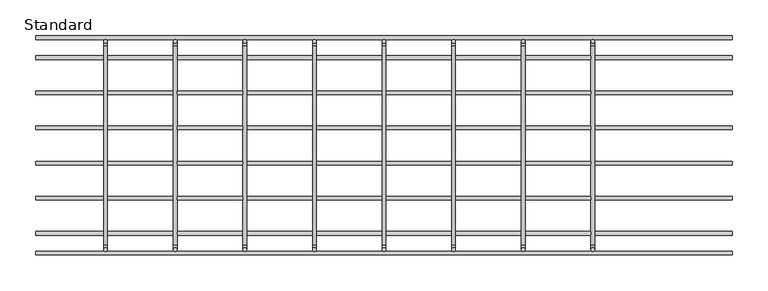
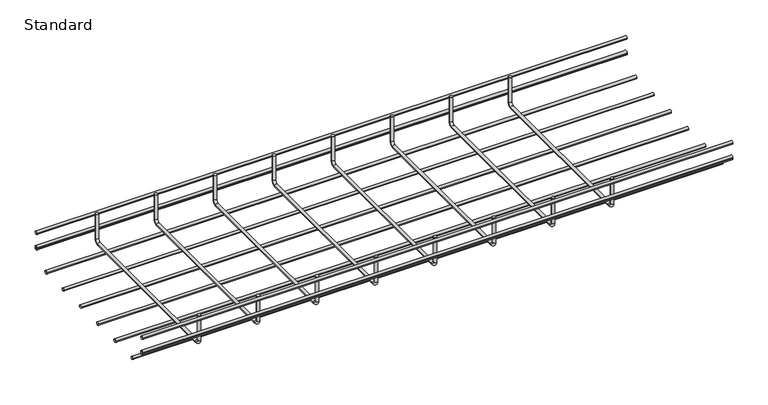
"""IFC4 building model written with IfcOpenShell, lengths in millimetres: cable carrier fitting geometry, CableTray_Atkore-Straight-Length : Standard."""

from ifc_helpers import new_model, si_unit, point, frame, frame_2d, origin, place, context, project, spatial, circle_curve, ellipse_curve, trimmed, segment, composite_curve, outline, extrude, source, transform, mapped, element, save
from ifc_brep_helpers import plane_surface, cylinder_surface, revolved_surface, advanced_brep


def standard_96c1f622(model_context):
    return source(origin(), model_context, "Body", "SolidModel", [
        extrude(outline(composite_curve([segment(trimmed(circle_curve(frame_2d((73.4025, -25.9357812)), 2.54), [point((70.8625, -25.9357812))], [point((75.9425, -25.9357812))], False, "CARTESIAN"), True, "CONTINUOUS"), segment(trimmed(circle_curve(frame_2d((73.4025, -25.9357812)), 2.54), [point((75.9425, -25.9357812))], [point((70.8625, -25.9357812))], False, "CARTESIAN"), True, "CONTINUOUS")], self_intersect=False)), frame((0.0, 0.0, 0.0), z_axis=(1.0, 0.0, 0.0), x_axis=(0.0, 1.0, 0.0)), (0.0, 0.0, 1.0), 967.2544998),
        extrude(outline(composite_curve([segment(trimmed(circle_curve(frame_2d((24.4675, -25.9357812)), 2.54), [point((21.9275, -25.9357812))], [point((27.0075, -25.9357812))], False, "CARTESIAN"), True, "CONTINUOUS"), segment(trimmed(circle_curve(frame_2d((24.4675, -25.9357812)), 2.54), [point((27.0075, -25.9357812))], [point((21.9275, -25.9357812))], False, "CARTESIAN"), True, "CONTINUOUS")], self_intersect=False)), frame((0.0, 0.0, 0.0), z_axis=(1.0, 0.0, 0.0), x_axis=(0.0, 1.0, 0.0)), (0.0, 0.0, 1.0), 967.2544998),
        extrude(outline(composite_curve([segment(trimmed(circle_curve(frame_2d((-24.4675, -25.9357812)), 2.54), [point((-27.0075, -25.9357812))], [point((-21.9275, -25.9357812))], False, "CARTESIAN"), True, "CONTINUOUS"), segment(trimmed(circle_curve(frame_2d((-24.4675, -25.9357812)), 2.54), [point((-21.9275, -25.9357812))], [point((-27.0075, -25.9357812))], False, "CARTESIAN"), True, "CONTINUOUS")], self_intersect=False)), frame((0.0, 0.0, 0.0), z_axis=(1.0, 0.0, 0.0), x_axis=(0.0, 1.0, 0.0)), (0.0, 0.0, 1.0), 967.2544998),
        extrude(outline(composite_curve([segment(trimmed(circle_curve(frame_2d((-73.4025, -25.9357812)), 2.54), [point((-75.9425, -25.9357812))], [point((-70.8625, -25.9357812))], False, "CARTESIAN"), True, "CONTINUOUS"), segment(trimmed(circle_curve(frame_2d((-73.4025, -25.9357812)), 2.54), [point((-70.8625, -25.9357812))], [point((-75.9425, -25.9357812))], False, "CARTESIAN"), True, "CONTINUOUS")], self_intersect=False)), frame((0.0, 0.0, 0.0), z_axis=(1.0, 0.0, 0.0), x_axis=(0.0, 1.0, 0.0)), (0.0, 0.0, 1.0), 967.2544998),
        advanced_brep(
        [(94.18545, -144.88, 28.4757813), (99.26545, -144.88, 28.4757813), (94.18545, -144.88, -14.8133594), (99.26545, -144.88, -14.8133594), (99.26545, -138.8375781, -20.8557812), (94.18545, -138.8375781, -20.8557812), (94.18545, 138.53, -20.8557812), (99.26545, 138.53, -20.8557812), (99.26545, 144.88, -14.5057812), (94.18545, 144.88, -14.5057812), (94.18545, 144.88, 28.4757813), (99.26545, 144.88, 28.4757813)],
        [
            (0, 1, circle_curve(frame((96.72545, -144.88, 28.4757813), z_axis=(0.0, 0.0, 1.0), x_axis=(1.0, 0.0, 0.0)), 2.54)),
            (1, 0, circle_curve(frame((96.72545, -144.88, 28.4757813), z_axis=(0.0, 0.0, 1.0), x_axis=(1.0, 0.0, 0.0)), 2.54)),
            (0, 2),
            (2, 3, circle_curve(frame((96.72545, -144.88, -14.8133594), z_axis=(0.0, 0.0, 1.0), x_axis=(1.0, 0.0, 0.0)), 2.54)),
            (3, 1),
            (3, 2, circle_curve(frame((96.72545, -144.88, -14.8133594), z_axis=(0.0, 0.0, 1.0), x_axis=(1.0, 0.0, 0.0)), 2.54)),
            (4, 3, circle_curve(frame((99.26545, -138.8375781, -14.8133594), z_axis=(-1.0, 0.0, 0.0), x_axis=(0.0, -1.0, 0.0)), 6.0424219)),
            (2, 5, circle_curve(frame((94.18545, -138.8375781, -14.8133594), z_axis=(1.0, 0.0, 0.0), x_axis=(0.0, -1.0, 0.0)), 6.0424219)),
            (5, 4, circle_curve(frame((96.72545, -138.8375781, -20.8557812), z_axis=(0.0, -1.0, 0.0), x_axis=(1.0, 0.0, 0.0)), 2.54)),
            (4, 5, circle_curve(frame((96.72545, -138.8375781, -20.8557812), z_axis=(0.0, -1.0, 0.0), x_axis=(1.0, 0.0, 0.0)), 2.54)),
            (5, 6),
            (6, 7, circle_curve(frame((96.72545, 138.53, -20.8557812), z_axis=(0.0, -1.0, 0.0), x_axis=(1.0, 0.0, 0.0)), 2.54)),
            (7, 4),
            (7, 6, circle_curve(frame((96.72545, 138.53, -20.8557812), z_axis=(0.0, -1.0, 0.0), x_axis=(1.0, 0.0, 0.0)), 2.54)),
            (8, 7, circle_curve(frame((99.26545, 138.53, -14.5057812), z_axis=(-1.0, 0.0, 0.0), x_axis=(0.0, 0.0, -1.0)), 6.35)),
            (6, 9, circle_curve(frame((94.18545, 138.53, -14.5057812), z_axis=(1.0, 0.0, 0.0), x_axis=(0.0, 0.0, -1.0)), 6.35)),
            (9, 8, circle_curve(frame((96.72545, 144.88, -14.5057812), z_axis=(0.0, 0.0, -1.0), x_axis=(1.0, 0.0, 0.0)), 2.54)),
            (8, 9, circle_curve(frame((96.72545, 144.88, -14.5057812), z_axis=(0.0, 0.0, -1.0), x_axis=(1.0, 0.0, 0.0)), 2.54)),
            (10, 11, circle_curve(frame((96.72545, 144.88, 28.4757813), z_axis=(0.0, 0.0, 1.0), x_axis=(1.0, 0.0, 0.0)), 2.54)),
            (11, 10, circle_curve(frame((96.72545, 144.88, 28.4757813), z_axis=(0.0, 0.0, 1.0), x_axis=(1.0, 0.0, 0.0)), 2.54)),
            (9, 10),
            (11, 8),
        ],
        [
            plane_surface(frame((96.72545, -144.88, 28.4757813), z_axis=(0.0, 0.0, 1.0), x_axis=(1.0, 0.0, 0.0))),
            cylinder_surface(frame((96.72545, -144.88, 28.4757813), z_axis=(0.0, 0.0, 1.0), x_axis=(1.0, 0.0, 0.0)), 2.54),
            revolved_surface(trimmed(ellipse_curve(frame((96.72545, -144.88, -14.8133594), z_axis=(0.0, 0.0, 1.0), x_axis=(1.0, 0.0, 0.0)), 2.54, 2.54), [point((94.18545, -144.88, -14.8133594))], [point((99.26545, -144.88, -14.8133594))], True, "CARTESIAN"), (96.72545, -138.8375781, -14.8133594), (1.0, 0.0, 0.0)),
            revolved_surface(trimmed(ellipse_curve(frame((96.72545, -144.88, -14.8133594), z_axis=(0.0, 0.0, 1.0), x_axis=(1.0, 0.0, 0.0)), 2.54, 2.54), [point((99.26545, -144.88, -14.8133594))], [point((94.18545, -144.88, -14.8133594))], True, "CARTESIAN"), (96.72545, -138.8375781, -14.8133594), (1.0, 0.0, 0.0)),
            cylinder_surface(frame((96.72545, -138.8375781, -20.8557812), z_axis=(0.0, -1.0, 0.0), x_axis=(1.0, 0.0, 0.0)), 2.54),
            revolved_surface(trimmed(ellipse_curve(frame((96.72545, 138.53, -20.8557812), z_axis=(0.0, -1.0, 0.0), x_axis=(1.0, 0.0, 0.0)), 2.54, 2.54), [point((94.18545, 138.53, -20.8557812))], [point((99.26545, 138.53, -20.8557812))], True, "CARTESIAN"), (96.72545, 138.53, -14.5057812), (1.0, 0.0, 0.0)),
            revolved_surface(trimmed(ellipse_curve(frame((96.72545, 138.53, -20.8557812), z_axis=(0.0, -1.0, 0.0), x_axis=(1.0, 0.0, 0.0)), 2.54, 2.54), [point((99.26545, 138.53, -20.8557812))], [point((94.18545, 138.53, -20.8557812))], True, "CARTESIAN"), (96.72545, 138.53, -14.5057812), (1.0, 0.0, 0.0)),
            plane_surface(frame((96.72545, 144.88, 28.4757813), z_axis=(0.0, 0.0, 1.0), x_axis=(1.0, 0.0, 0.0))),
            cylinder_surface(frame((96.72545, 144.88, -14.5057812), z_axis=(0.0, 0.0, -1.0), x_axis=(1.0, 0.0, 0.0)), 2.54),
        ],
        [
            (0, [[1, 2]]),
            (1, [[-1, 3, 4, 5]]),
            (1, [[-2, -5, 6, -3]]),
            (2, [[7, -4, 8, 9]]),
            (3, [[-8, -6, -7, 10]]),
            (4, [[-9, 11, 12, 13]]),
            (4, [[-10, -13, 14, -11]]),
            (5, [[15, -12, 16, 17]]),
            (6, [[-16, -14, -15, 18]]),
            (7, [[19, 20]]),
            (8, [[-17, 21, -20, 22]]),
            (8, [[-18, -22, -19, -21]]),
        ],
    ),
        advanced_brep(
        [(190.9109, -144.88, 28.4757813), (195.9909, -144.88, 28.4757813), (190.9109, -144.88, -14.8133594), (195.9909, -144.88, -14.8133594), (195.9909, -138.8375781, -20.8557812), (190.9109, -138.8375781, -20.8557812), (190.9109, 138.53, -20.8557812), (195.9909, 138.53, -20.8557812), (195.9909, 144.88, -14.5057812), (190.9109, 144.88, -14.5057812), (190.9109, 144.88, 28.4757813), (195.9909, 144.88, 28.4757813)],
        [
            (0, 1, circle_curve(frame((193.4509, -144.88, 28.4757813), z_axis=(0.0, 0.0, 1.0), x_axis=(1.0, 0.0, 0.0)), 2.54)),
            (1, 0, circle_curve(frame((193.4509, -144.88, 28.4757813), z_axis=(0.0, 0.0, 1.0), x_axis=(1.0, 0.0, 0.0)), 2.54)),
            (0, 2),
            (2, 3, circle_curve(frame((193.4509, -144.88, -14.8133594), z_axis=(0.0, 0.0, 1.0), x_axis=(1.0, 0.0, 0.0)), 2.54)),
            (3, 1),
            (3, 2, circle_curve(frame((193.4509, -144.88, -14.8133594), z_axis=(0.0, 0.0, 1.0), x_axis=(1.0, 0.0, 0.0)), 2.54)),
            (4, 3, circle_curve(frame((195.9909, -138.8375781, -14.8133594), z_axis=(-1.0, 0.0, 0.0), x_axis=(0.0, -1.0, 0.0)), 6.0424219)),
            (2, 5, circle_curve(frame((190.9109, -138.8375781, -14.8133594), z_axis=(1.0, 0.0, 0.0), x_axis=(0.0, -1.0, 0.0)), 6.0424219)),
            (5, 4, circle_curve(frame((193.4509, -138.8375781, -20.8557812), z_axis=(0.0, -1.0, 0.0), x_axis=(1.0, 0.0, 0.0)), 2.54)),
            (4, 5, circle_curve(frame((193.4509, -138.8375781, -20.8557812), z_axis=(0.0, -1.0, 0.0), x_axis=(1.0, 0.0, 0.0)), 2.54)),
            (5, 6),
            (6, 7, circle_curve(frame((193.4509, 138.53, -20.8557812), z_axis=(0.0, -1.0, 0.0), x_axis=(1.0, 0.0, 0.0)), 2.54)),
            (7, 4),
            (7, 6, circle_curve(frame((193.4509, 138.53, -20.8557812), z_axis=(0.0, -1.0, 0.0), x_axis=(1.0, 0.0, 0.0)), 2.54)),
            (8, 7, circle_curve(frame((195.9909, 138.53, -14.5057812), z_axis=(-1.0, 0.0, 0.0), x_axis=(0.0, 0.0, -1.0)), 6.35)),
            (6, 9, circle_curve(frame((190.9109, 138.53, -14.5057812), z_axis=(1.0, 0.0, 0.0), x_axis=(0.0, 0.0, -1.0)), 6.35)),
            (9, 8, circle_curve(frame((193.4509, 144.88, -14.5057812), z_axis=(0.0, 0.0, -1.0), x_axis=(1.0, 0.0, 0.0)), 2.54)),
            (8, 9, circle_curve(frame((193.4509, 144.88, -14.5057812), z_axis=(0.0, 0.0, -1.0), x_axis=(1.0, 0.0, 0.0)), 2.54)),
            (10, 11, circle_curve(frame((193.4509, 144.88, 28.4757813), z_axis=(0.0, 0.0, 1.0), x_axis=(1.0, 0.0, 0.0)), 2.54)),
            (11, 10, circle_curve(frame((193.4509, 144.88, 28.4757813), z_axis=(0.0, 0.0, 1.0), x_axis=(1.0, 0.0, 0.0)), 2.54)),
            (9, 10),
            (11, 8),
        ],
        [
            plane_surface(frame((193.4509, -144.88, 28.4757813), z_axis=(0.0, 0.0, 1.0), x_axis=(1.0, 0.0, 0.0))),
            cylinder_surface(frame((193.4509, -144.88, 28.4757813), z_axis=(0.0, 0.0, 1.0), x_axis=(1.0, 0.0, 0.0)), 2.54),
            revolved_surface(trimmed(ellipse_curve(frame((193.4509, -144.88, -14.8133594), z_axis=(0.0, 0.0, 1.0), x_axis=(1.0, 0.0, 0.0)), 2.54, 2.54), [point((190.9109, -144.88, -14.8133594))], [point((195.9909, -144.88, -14.8133594))], True, "CARTESIAN"), (193.4509, -138.8375781, -14.8133594), (1.0, 0.0, 0.0)),
            revolved_surface(trimmed(ellipse_curve(frame((193.4509, -144.88, -14.8133594), z_axis=(0.0, 0.0, 1.0), x_axis=(1.0, 0.0, 0.0)), 2.54, 2.54), [point((195.9909, -144.88, -14.8133594))], [point((190.9109, -144.88, -14.8133594))], True, "CARTESIAN"), (193.4509, -138.8375781, -14.8133594), (1.0, 0.0, 0.0)),
            cylinder_surface(frame((193.4509, -138.8375781, -20.8557812), z_axis=(0.0, -1.0, 0.0), x_axis=(1.0, 0.0, 0.0)), 2.54),
            revolved_surface(trimmed(ellipse_curve(frame((193.4509, 138.53, -20.8557812), z_axis=(0.0, -1.0, 0.0), x_axis=(1.0, 0.0, 0.0)), 2.54, 2.54), [point((190.9109, 138.53, -20.8557812))], [point((195.9909, 138.53, -20.8557812))], True, "CARTESIAN"), (193.4509, 138.53, -14.5057812), (1.0, 0.0, 0.0)),
            revolved_surface(trimmed(ellipse_curve(frame((193.4509, 138.53, -20.8557812), z_axis=(0.0, -1.0, 0.0), x_axis=(1.0, 0.0, 0.0)), 2.54, 2.54), [point((195.9909, 138.53, -20.8557812))], [point((190.9109, 138.53, -20.8557812))], True, "CARTESIAN"), (193.4509, 138.53, -14.5057812), (1.0, 0.0, 0.0)),
            plane_surface(frame((193.4509, 144.88, 28.4757813), z_axis=(0.0, 0.0, 1.0), x_axis=(1.0, 0.0, 0.0))),
            cylinder_surface(frame((193.4509, 144.88, -14.5057812), z_axis=(0.0, 0.0, -1.0), x_axis=(1.0, 0.0, 0.0)), 2.54),
        ],
        [
            (0, [[1, 2]]),
            (1, [[-1, 3, 4, 5]]),
            (1, [[-2, -5, 6, -3]]),
            (2, [[7, -4, 8, 9]]),
            (3, [[-8, -6, -7, 10]]),
            (4, [[-9, 11, 12, 13]]),
            (4, [[-10, -13, 14, -11]]),
            (5, [[15, -12, 16, 17]]),
            (6, [[-16, -14, -15, 18]]),
            (7, [[19, 20]]),
            (8, [[-17, 21, -20, 22]]),
            (8, [[-18, -22, -19, -21]]),
        ],
    ),
        advanced_brep(
        [(287.6363499, -144.88, 28.4757813), (292.7163499, -144.88, 28.4757813), (287.6363499, -144.88, -14.8133594), (292.7163499, -144.88, -14.8133594), (292.7163499, -138.8375781, -20.8557812), (287.6363499, -138.8375781, -20.8557812), (287.6363499, 138.53, -20.8557812), (292.7163499, 138.53, -20.8557812), (292.7163499, 144.88, -14.5057812), (287.6363499, 144.88, -14.5057812), (287.6363499, 144.88, 28.4757813), (292.7163499, 144.88, 28.4757813)],
        [
            (0, 1, circle_curve(frame((290.1763499, -144.88, 28.4757813), z_axis=(0.0, 0.0, 1.0), x_axis=(1.0, 0.0, 0.0)), 2.54)),
            (1, 0, circle_curve(frame((290.1763499, -144.88, 28.4757813), z_axis=(0.0, 0.0, 1.0), x_axis=(1.0, 0.0, 0.0)), 2.54)),
            (0, 2),
            (2, 3, circle_curve(frame((290.1763499, -144.88, -14.8133594), z_axis=(0.0, 0.0, 1.0), x_axis=(1.0, 0.0, 0.0)), 2.54)),
            (3, 1),
            (3, 2, circle_curve(frame((290.1763499, -144.88, -14.8133594), z_axis=(0.0, 0.0, 1.0), x_axis=(1.0, 0.0, 0.0)), 2.54)),
            (4, 3, circle_curve(frame((292.7163499, -138.8375781, -14.8133594), z_axis=(-1.0, 0.0, 0.0), x_axis=(0.0, -1.0, 0.0)), 6.0424219)),
            (2, 5, circle_curve(frame((287.6363499, -138.8375781, -14.8133594), z_axis=(1.0, 0.0, 0.0), x_axis=(0.0, -1.0, 0.0)), 6.0424219)),
            (5, 4, circle_curve(frame((290.1763499, -138.8375781, -20.8557812), z_axis=(0.0, -1.0, 0.0), x_axis=(1.0, 0.0, 0.0)), 2.54)),
            (4, 5, circle_curve(frame((290.1763499, -138.8375781, -20.8557812), z_axis=(0.0, -1.0, 0.0), x_axis=(1.0, 0.0, 0.0)), 2.54)),
            (5, 6),
            (6, 7, circle_curve(frame((290.1763499, 138.53, -20.8557812), z_axis=(0.0, -1.0, 0.0), x_axis=(1.0, 0.0, 0.0)), 2.54)),
            (7, 4),
            (7, 6, circle_curve(frame((290.1763499, 138.53, -20.8557812), z_axis=(0.0, -1.0, 0.0), x_axis=(1.0, 0.0, 0.0)), 2.54)),
            (8, 7, circle_curve(frame((292.7163499, 138.53, -14.5057812), z_axis=(-1.0, 0.0, 0.0), x_axis=(0.0, 0.0, -1.0)), 6.35)),
            (6, 9, circle_curve(frame((287.6363499, 138.53, -14.5057812), z_axis=(1.0, 0.0, 0.0), x_axis=(0.0, 0.0, -1.0)), 6.35)),
            (9, 8, circle_curve(frame((290.1763499, 144.88, -14.5057812), z_axis=(0.0, 0.0, -1.0), x_axis=(1.0, 0.0, 0.0)), 2.54)),
            (8, 9, circle_curve(frame((290.1763499, 144.88, -14.5057812), z_axis=(0.0, 0.0, -1.0), x_axis=(1.0, 0.0, 0.0)), 2.54)),
            (10, 11, circle_curve(frame((290.1763499, 144.88, 28.4757813), z_axis=(0.0, 0.0, 1.0), x_axis=(1.0, 0.0, 0.0)), 2.54)),
            (11, 10, circle_curve(frame((290.1763499, 144.88, 28.4757813), z_axis=(0.0, 0.0, 1.0), x_axis=(1.0, 0.0, 0.0)), 2.54)),
            (9, 10),
            (11, 8),
        ],
        [
            plane_surface(frame((290.1763499, -144.88, 28.4757813), z_axis=(0.0, 0.0, 1.0), x_axis=(1.0, 0.0, 0.0))),
            cylinder_surface(frame((290.1763499, -144.88, 28.4757813), z_axis=(0.0, 0.0, 1.0), x_axis=(1.0, 0.0, 0.0)), 2.54),
            revolved_surface(trimmed(ellipse_curve(frame((290.1763499, -144.88, -14.8133594), z_axis=(0.0, 0.0, 1.0), x_axis=(1.0, 0.0, 0.0)), 2.54, 2.54), [point((287.6363499, -144.88, -14.8133594))], [point((292.7163499, -144.88, -14.8133594))], True, "CARTESIAN"), (290.1763499, -138.8375781, -14.8133594), (1.0, 0.0, 0.0)),
            revolved_surface(trimmed(ellipse_curve(frame((290.1763499, -144.88, -14.8133594), z_axis=(0.0, 0.0, 1.0), x_axis=(1.0, 0.0, 0.0)), 2.54, 2.54), [point((292.7163499, -144.88, -14.8133594))], [point((287.6363499, -144.88, -14.8133594))], True, "CARTESIAN"), (290.1763499, -138.8375781, -14.8133594), (1.0, 0.0, 0.0)),
            cylinder_surface(frame((290.1763499, -138.8375781, -20.8557812), z_axis=(0.0, -1.0, 0.0), x_axis=(1.0, 0.0, 0.0)), 2.54),
            revolved_surface(trimmed(ellipse_curve(frame((290.1763499, 138.53, -20.8557812), z_axis=(0.0, -1.0, 0.0), x_axis=(1.0, 0.0, 0.0)), 2.54, 2.54), [point((287.6363499, 138.53, -20.8557812))], [point((292.7163499, 138.53, -20.8557812))], True, "CARTESIAN"), (290.1763499, 138.53, -14.5057812), (1.0, 0.0, 0.0)),
            revolved_surface(trimmed(ellipse_curve(frame((290.1763499, 138.53, -20.8557812), z_axis=(0.0, -1.0, 0.0), x_axis=(1.0, 0.0, 0.0)), 2.54, 2.54), [point((292.7163499, 138.53, -20.8557812))], [point((287.6363499, 138.53, -20.8557812))], True, "CARTESIAN"), (290.1763499, 138.53, -14.5057812), (1.0, 0.0, 0.0)),
            plane_surface(frame((290.1763499, 144.88, 28.4757813), z_axis=(0.0, 0.0, 1.0), x_axis=(1.0, 0.0, 0.0))),
            cylinder_surface(frame((290.1763499, 144.88, -14.5057812), z_axis=(0.0, 0.0, -1.0), x_axis=(1.0, 0.0, 0.0)), 2.54),
        ],
        [
            (0, [[1, 2]]),
            (1, [[-1, 3, 4, 5]]),
            (1, [[-2, -5, 6, -3]]),
            (2, [[7, -4, 8, 9]]),
            (3, [[-8, -6, -7, 10]]),
            (4, [[-9, 11, 12, 13]]),
            (4, [[-10, -13, 14, -11]]),
            (5, [[15, -12, 16, 17]]),
            (6, [[-16, -14, -15, 18]]),
            (7, [[19, 20]]),
            (8, [[-17, 21, -20, 22]]),
            (8, [[-18, -22, -19, -21]]),
        ],
    ),
        advanced_brep(
        [(384.3617999, -144.88, 28.4757813), (389.4417999, -144.88, 28.4757813), (384.3617999, -144.88, -14.8133594), (389.4417999, -144.88, -14.8133594), (389.4417999, -138.8375781, -20.8557812), (384.3617999, -138.8375781, -20.8557812), (384.3617999, 138.53, -20.8557812), (389.4417999, 138.53, -20.8557812), (389.4417999, 144.88, -14.5057812), (384.3617999, 144.88, -14.5057812), (384.3617999, 144.88, 28.4757813), (389.4417999, 144.88, 28.4757813)],
        [
            (0, 1, circle_curve(frame((386.9017999, -144.88, 28.4757813), z_axis=(0.0, 0.0, 1.0), x_axis=(1.0, 0.0, 0.0)), 2.54)),
            (1, 0, circle_curve(frame((386.9017999, -144.88, 28.4757813), z_axis=(0.0, 0.0, 1.0), x_axis=(1.0, 0.0, 0.0)), 2.54)),
            (0, 2),
            (2, 3, circle_curve(frame((386.9017999, -144.88, -14.8133594), z_axis=(0.0, 0.0, 1.0), x_axis=(1.0, 0.0, 0.0)), 2.54)),
            (3, 1),
            (3, 2, circle_curve(frame((386.9017999, -144.88, -14.8133594), z_axis=(0.0, 0.0, 1.0), x_axis=(1.0, 0.0, 0.0)), 2.54)),
            (4, 3, circle_curve(frame((389.4417999, -138.8375781, -14.8133594), z_axis=(-1.0, 0.0, 0.0), x_axis=(0.0, -1.0, 0.0)), 6.0424219)),
            (2, 5, circle_curve(frame((384.3617999, -138.8375781, -14.8133594), z_axis=(1.0, 0.0, 0.0), x_axis=(0.0, -1.0, 0.0)), 6.0424219)),
            (5, 4, circle_curve(frame((386.9017999, -138.8375781, -20.8557812), z_axis=(0.0, -1.0, 0.0), x_axis=(1.0, 0.0, 0.0)), 2.54)),
            (4, 5, circle_curve(frame((386.9017999, -138.8375781, -20.8557812), z_axis=(0.0, -1.0, 0.0), x_axis=(1.0, 0.0, 0.0)), 2.54)),
            (5, 6),
            (6, 7, circle_curve(frame((386.9017999, 138.53, -20.8557812), z_axis=(0.0, -1.0, 0.0), x_axis=(1.0, 0.0, 0.0)), 2.54)),
            (7, 4),
            (7, 6, circle_curve(frame((386.9017999, 138.53, -20.8557812), z_axis=(0.0, -1.0, 0.0), x_axis=(1.0, 0.0, 0.0)), 2.54)),
            (8, 7, circle_curve(frame((389.4417999, 138.53, -14.5057812), z_axis=(-1.0, 0.0, 0.0), x_axis=(0.0, 0.0, -1.0)), 6.35)),
            (6, 9, circle_curve(frame((384.3617999, 138.53, -14.5057812), z_axis=(1.0, 0.0, 0.0), x_axis=(0.0, 0.0, -1.0)), 6.35)),
            (9, 8, circle_curve(frame((386.9017999, 144.88, -14.5057812), z_axis=(0.0, 0.0, -1.0), x_axis=(1.0, 0.0, 0.0)), 2.54)),
            (8, 9, circle_curve(frame((386.9017999, 144.88, -14.5057812), z_axis=(0.0, 0.0, -1.0), x_axis=(1.0, 0.0, 0.0)), 2.54)),
            (10, 11, circle_curve(frame((386.9017999, 144.88, 28.4757813), z_axis=(0.0, 0.0, 1.0), x_axis=(1.0, 0.0, 0.0)), 2.54)),
            (11, 10, circle_curve(frame((386.9017999, 144.88, 28.4757813), z_axis=(0.0, 0.0, 1.0), x_axis=(1.0, 0.0, 0.0)), 2.54)),
            (9, 10),
            (11, 8),
        ],
        [
            plane_surface(frame((386.9017999, -144.88, 28.4757813), z_axis=(0.0, 0.0, 1.0), x_axis=(1.0, 0.0, 0.0))),
            cylinder_surface(frame((386.9017999, -144.88, 28.4757813), z_axis=(0.0, 0.0, 1.0), x_axis=(1.0, 0.0, 0.0)), 2.54),
            revolved_surface(trimmed(ellipse_curve(frame((386.9017999, -144.88, -14.8133594), z_axis=(0.0, 0.0, 1.0), x_axis=(1.0, 0.0, 0.0)), 2.54, 2.54), [point((384.3617999, -144.88, -14.8133594))], [point((389.4417999, -144.88, -14.8133594))], True, "CARTESIAN"), (386.9017999, -138.8375781, -14.8133594), (1.0, 0.0, 0.0)),
            revolved_surface(trimmed(ellipse_curve(frame((386.9017999, -144.88, -14.8133594), z_axis=(0.0, 0.0, 1.0), x_axis=(1.0, 0.0, 0.0)), 2.54, 2.54), [point((389.4417999, -144.88, -14.8133594))], [point((384.3617999, -144.88, -14.8133594))], True, "CARTESIAN"), (386.9017999, -138.8375781, -14.8133594), (1.0, 0.0, 0.0)),
            cylinder_surface(frame((386.9017999, -138.8375781, -20.8557812), z_axis=(0.0, -1.0, 0.0), x_axis=(1.0, 0.0, 0.0)), 2.54),
            revolved_surface(trimmed(ellipse_curve(frame((386.9017999, 138.53, -20.8557812), z_axis=(0.0, -1.0, 0.0), x_axis=(1.0, 0.0, 0.0)), 2.54, 2.54), [point((384.3617999, 138.53, -20.8557812))], [point((389.4417999, 138.53, -20.8557812))], True, "CARTESIAN"), (386.9017999, 138.53, -14.5057812), (1.0, 0.0, 0.0)),
            revolved_surface(trimmed(ellipse_curve(frame((386.9017999, 138.53, -20.8557812), z_axis=(0.0, -1.0, 0.0), x_axis=(1.0, 0.0, 0.0)), 2.54, 2.54), [point((389.4417999, 138.53, -20.8557812))], [point((384.3617999, 138.53, -20.8557812))], True, "CARTESIAN"), (386.9017999, 138.53, -14.5057812), (1.0, 0.0, 0.0)),
            plane_surface(frame((386.9017999, 144.88, 28.4757813), z_axis=(0.0, 0.0, 1.0), x_axis=(1.0, 0.0, 0.0))),
            cylinder_surface(frame((386.9017999, 144.88, -14.5057812), z_axis=(0.0, 0.0, -1.0), x_axis=(1.0, 0.0, 0.0)), 2.54),
        ],
        [
            (0, [[1, 2]]),
            (1, [[-1, 3, 4, 5]]),
            (1, [[-2, -5, 6, -3]]),
            (2, [[7, -4, 8, 9]]),
            (3, [[-8, -6, -7, 10]]),
            (4, [[-9, 11, 12, 13]]),
            (4, [[-10, -13, 14, -11]]),
            (5, [[15, -12, 16, 17]]),
            (6, [[-16, -14, -15, 18]]),
            (7, [[19, 20]]),
            (8, [[-17, 21, -20, 22]]),
            (8, [[-18, -22, -19, -21]]),
        ],
    ),
        extrude(outline(composite_curve([segment(trimmed(circle_curve(frame_2d((149.96, 0.681454)), 2.54), [point((152.5, 0.681454))], [point((147.42, 0.681454))], False, "CARTESIAN"), True, "CONTINUOUS"), segment(trimmed(circle_curve(frame_2d((149.96, 0.681454)), 2.54), [point((147.42, 0.681454))], [point((152.5, 0.681454))], False, "CARTESIAN"), True, "CONTINUOUS")], self_intersect=False)), frame((0.0, 0.0, 0.0), z_axis=(1.0, 0.0, 0.0), x_axis=(0.0, 1.0, 0.0)), (0.0, 0.0, 1.0), 967.2544998),
        extrude(outline(composite_curve([segment(trimmed(circle_curve(frame_2d((149.96, -1.0517187)), 2.54), [point((152.5, -1.0517187))], [point((147.42, -1.0517187))], False, "CARTESIAN"), True, "CONTINUOUS"), segment(trimmed(circle_curve(frame_2d((149.96, -1.0517187)), 2.54), [point((147.42, -1.0517187))], [point((152.5, -1.0517187))], False, "CARTESIAN"), True, "CONTINUOUS")], self_intersect=False)), frame((0.0, 0.0, 0.0), z_axis=(1.0, 0.0, 0.0), x_axis=(0.0, 1.0, 0.0)), (0.0, 0.0, 1.0), 967.2544998),
        extrude(outline(composite_curve([segment(trimmed(circle_curve(frame_2d((-149.96, -1.0517187)), 2.54), [point((-152.5, -1.0517187))], [point((-147.42, -1.0517187))], False, "CARTESIAN"), True, "CONTINUOUS"), segment(trimmed(circle_curve(frame_2d((-149.96, -1.0517187)), 2.54), [point((-147.42, -1.0517187))], [point((-152.5, -1.0517187))], False, "CARTESIAN"), True, "CONTINUOUS")], self_intersect=False)), frame((0.0, 0.0, 0.0), z_axis=(1.0, 0.0, 0.0), x_axis=(0.0, 1.0, 0.0)), (0.0, 0.0, 1.0), 967.2544998),
        extrude(outline(composite_curve([segment(trimmed(circle_curve(frame_2d((-149.96, 0.681454)), 2.54), [point((-152.5, 0.681454))], [point((-147.42, 0.681454))], False, "CARTESIAN"), True, "CONTINUOUS"), segment(trimmed(circle_curve(frame_2d((-149.96, 0.681454)), 2.54), [point((-147.42, 0.681454))], [point((-152.5, 0.681454))], False, "CARTESIAN"), True, "CONTINUOUS")], self_intersect=False)), frame((0.0, 0.0, 0.0), z_axis=(1.0, 0.0, 0.0), x_axis=(0.0, 1.0, 0.0)), (0.0, 0.0, 1.0), 967.2544998),
        extrude(outline(composite_curve([segment(trimmed(circle_curve(frame_2d((122.3375, -25.9357812)), 2.54), [point((119.7975, -25.9357812))], [point((124.8775, -25.9357812))], False, "CARTESIAN"), True, "CONTINUOUS"), segment(trimmed(circle_curve(frame_2d((122.3375, -25.9357812)), 2.54), [point((124.8775, -25.9357812))], [point((119.7975, -25.9357812))], False, "CARTESIAN"), True, "CONTINUOUS")], self_intersect=False)), frame((0.0, 0.0, 0.0), z_axis=(1.0, 0.0, 0.0), x_axis=(0.0, 1.0, 0.0)), (0.0, 0.0, 1.0), 967.2544998),
        advanced_brep(
        [(481.0872499, -144.88, 28.4757813), (486.1672499, -144.88, 28.4757813), (481.0872499, -144.88, -14.8133594), (486.1672499, -144.88, -14.8133594), (486.1672499, -138.8375781, -20.8557812), (481.0872499, -138.8375781, -20.8557812), (481.0872499, 138.53, -20.8557812), (486.1672499, 138.53, -20.8557812), (486.1672499, 144.88, -14.5057812), (481.0872499, 144.88, -14.5057812), (481.0872499, 144.88, 28.4757813), (486.1672499, 144.88, 28.4757813)],
        [
            (0, 1, circle_curve(frame((483.6272499, -144.88, 28.4757813), z_axis=(0.0, 0.0, 1.0), x_axis=(1.0, 0.0, 0.0)), 2.54)),
            (1, 0, circle_curve(frame((483.6272499, -144.88, 28.4757813), z_axis=(0.0, 0.0, 1.0), x_axis=(1.0, 0.0, 0.0)), 2.54)),
            (0, 2),
            (2, 3, circle_curve(frame((483.6272499, -144.88, -14.8133594), z_axis=(0.0, 0.0, 1.0), x_axis=(1.0, 0.0, 0.0)), 2.54)),
            (3, 1),
            (3, 2, circle_curve(frame((483.6272499, -144.88, -14.8133594), z_axis=(0.0, 0.0, 1.0), x_axis=(1.0, 0.0, 0.0)), 2.54)),
            (4, 3, circle_curve(frame((486.1672499, -138.8375781, -14.8133594), z_axis=(-1.0, 0.0, 0.0), x_axis=(0.0, -1.0, 0.0)), 6.0424219)),
            (2, 5, circle_curve(frame((481.0872499, -138.8375781, -14.8133594), z_axis=(1.0, 0.0, 0.0), x_axis=(0.0, -1.0, 0.0)), 6.0424219)),
            (5, 4, circle_curve(frame((483.6272499, -138.8375781, -20.8557812), z_axis=(0.0, -1.0, 0.0), x_axis=(1.0, 0.0, 0.0)), 2.54)),
            (4, 5, circle_curve(frame((483.6272499, -138.8375781, -20.8557812), z_axis=(0.0, -1.0, 0.0), x_axis=(1.0, 0.0, 0.0)), 2.54)),
            (5, 6),
            (6, 7, circle_curve(frame((483.6272499, 138.53, -20.8557812), z_axis=(0.0, -1.0, 0.0), x_axis=(1.0, 0.0, 0.0)), 2.54)),
            (7, 4),
            (7, 6, circle_curve(frame((483.6272499, 138.53, -20.8557812), z_axis=(0.0, -1.0, 0.0), x_axis=(1.0, 0.0, 0.0)), 2.54)),
            (8, 7, circle_curve(frame((486.1672499, 138.53, -14.5057812), z_axis=(-1.0, 0.0, 0.0), x_axis=(0.0, 0.0, -1.0)), 6.35)),
            (6, 9, circle_curve(frame((481.0872499, 138.53, -14.5057812), z_axis=(1.0, 0.0, 0.0), x_axis=(0.0, 0.0, -1.0)), 6.35)),
            (9, 8, circle_curve(frame((483.6272499, 144.88, -14.5057812), z_axis=(0.0, 0.0, -1.0), x_axis=(1.0, 0.0, 0.0)), 2.54)),
            (8, 9, circle_curve(frame((483.6272499, 144.88, -14.5057812), z_axis=(0.0, 0.0, -1.0), x_axis=(1.0, 0.0, 0.0)), 2.54)),
            (10, 11, circle_curve(frame((483.6272499, 144.88, 28.4757813), z_axis=(0.0, 0.0, 1.0), x_axis=(1.0, 0.0, 0.0)), 2.54)),
            (11, 10, circle_curve(frame((483.6272499, 144.88, 28.4757813), z_axis=(0.0, 0.0, 1.0), x_axis=(1.0, 0.0, 0.0)), 2.54)),
            (9, 10),
            (11, 8),
        ],
        [
            plane_surface(frame((483.6272499, -144.88, 28.4757813), z_axis=(0.0, 0.0, 1.0), x_axis=(1.0, 0.0, 0.0))),
            cylinder_surface(frame((483.6272499, -144.88, 28.4757813), z_axis=(0.0, 0.0, 1.0), x_axis=(1.0, 0.0, 0.0)), 2.54),
            revolved_surface(trimmed(ellipse_curve(frame((483.6272499, -144.88, -14.8133594), z_axis=(0.0, 0.0, 1.0), x_axis=(1.0, 0.0, 0.0)), 2.54, 2.54), [point((481.0872499, -144.88, -14.8133594))], [point((486.1672499, -144.88, -14.8133594))], True, "CARTESIAN"), (483.6272499, -138.8375781, -14.8133594), (1.0, 0.0, 0.0)),
            revolved_surface(trimmed(ellipse_curve(frame((483.6272499, -144.88, -14.8133594), z_axis=(0.0, 0.0, 1.0), x_axis=(1.0, 0.0, 0.0)), 2.54, 2.54), [point((486.1672499, -144.88, -14.8133594))], [point((481.0872499, -144.88, -14.8133594))], True, "CARTESIAN"), (483.6272499, -138.8375781, -14.8133594), (1.0, 0.0, 0.0)),
            cylinder_surface(frame((483.6272499, -138.8375781, -20.8557812), z_axis=(0.0, -1.0, 0.0), x_axis=(1.0, 0.0, 0.0)), 2.54),
            revolved_surface(trimmed(ellipse_curve(frame((483.6272499, 138.53, -20.8557812), z_axis=(0.0, -1.0, 0.0), x_axis=(1.0, 0.0, 0.0)), 2.54, 2.54), [point((481.0872499, 138.53, -20.8557812))], [point((486.1672499, 138.53, -20.8557812))], True, "CARTESIAN"), (483.6272499, 138.53, -14.5057812), (1.0, 0.0, 0.0)),
            revolved_surface(trimmed(ellipse_curve(frame((483.6272499, 138.53, -20.8557812), z_axis=(0.0, -1.0, 0.0), x_axis=(1.0, 0.0, 0.0)), 2.54, 2.54), [point((486.1672499, 138.53, -20.8557812))], [point((481.0872499, 138.53, -20.8557812))], True, "CARTESIAN"), (483.6272499, 138.53, -14.5057812), (1.0, 0.0, 0.0)),
            plane_surface(frame((483.6272499, 144.88, 28.4757813), z_axis=(0.0, 0.0, 1.0), x_axis=(1.0, 0.0, 0.0))),
            cylinder_surface(frame((483.6272499, 144.88, -14.5057812), z_axis=(0.0, 0.0, -1.0), x_axis=(1.0, 0.0, 0.0)), 2.54),
        ],
        [
            (0, [[1, 2]]),
            (1, [[-1, 3, 4, 5]]),
            (1, [[-2, -5, 6, -3]]),
            (2, [[7, -4, 8, 9]]),
            (3, [[-8, -6, -7, 10]]),
            (4, [[-9, 11, 12, 13]]),
            (4, [[-10, -13, 14, -11]]),
            (5, [[15, -12, 16, 17]]),
            (6, [[-16, -14, -15, 18]]),
            (7, [[19, 20]]),
            (8, [[-17, 21, -20, 22]]),
            (8, [[-18, -22, -19, -21]]),
        ],
    ),
        advanced_brep(
        [(577.8126999, -144.88, 28.4757813), (582.8926999, -144.88, 28.4757813), (577.8126999, -144.88, -14.8133594), (582.8926999, -144.88, -14.8133594), (582.8926999, -138.8375781, -20.8557812), (577.8126999, -138.8375781, -20.8557812), (577.8126999, 138.53, -20.8557812), (582.8926999, 138.53, -20.8557812), (582.8926999, 144.88, -14.5057812), (577.8126999, 144.88, -14.5057812), (577.8126999, 144.88, 28.4757813), (582.8926999, 144.88, 28.4757813)],
        [
            (0, 1, circle_curve(frame((580.3526999, -144.88, 28.4757813), z_axis=(0.0, 0.0, 1.0), x_axis=(1.0, 0.0, 0.0)), 2.54)),
            (1, 0, circle_curve(frame((580.3526999, -144.88, 28.4757813), z_axis=(0.0, 0.0, 1.0), x_axis=(1.0, 0.0, 0.0)), 2.54)),
            (0, 2),
            (2, 3, circle_curve(frame((580.3526999, -144.88, -14.8133594), z_axis=(0.0, 0.0, 1.0), x_axis=(1.0, 0.0, 0.0)), 2.54)),
            (3, 1),
            (3, 2, circle_curve(frame((580.3526999, -144.88, -14.8133594), z_axis=(0.0, 0.0, 1.0), x_axis=(1.0, 0.0, 0.0)), 2.54)),
            (4, 3, circle_curve(frame((582.8926999, -138.8375781, -14.8133594), z_axis=(-1.0, 0.0, 0.0), x_axis=(0.0, -1.0, 0.0)), 6.0424219)),
            (2, 5, circle_curve(frame((577.8126999, -138.8375781, -14.8133594), z_axis=(1.0, 0.0, 0.0), x_axis=(0.0, -1.0, 0.0)), 6.0424219)),
            (5, 4, circle_curve(frame((580.3526999, -138.8375781, -20.8557812), z_axis=(0.0, -1.0, 0.0), x_axis=(1.0, 0.0, 0.0)), 2.54)),
            (4, 5, circle_curve(frame((580.3526999, -138.8375781, -20.8557812), z_axis=(0.0, -1.0, 0.0), x_axis=(1.0, 0.0, 0.0)), 2.54)),
            (5, 6),
            (6, 7, circle_curve(frame((580.3526999, 138.53, -20.8557812), z_axis=(0.0, -1.0, 0.0), x_axis=(1.0, 0.0, 0.0)), 2.54)),
            (7, 4),
            (7, 6, circle_curve(frame((580.3526999, 138.53, -20.8557812), z_axis=(0.0, -1.0, 0.0), x_axis=(1.0, 0.0, 0.0)), 2.54)),
            (8, 7, circle_curve(frame((582.8926999, 138.53, -14.5057812), z_axis=(-1.0, 0.0, 0.0), x_axis=(0.0, 0.0, -1.0)), 6.35)),
            (6, 9, circle_curve(frame((577.8126999, 138.53, -14.5057812), z_axis=(1.0, 0.0, 0.0), x_axis=(0.0, 0.0, -1.0)), 6.35)),
            (9, 8, circle_curve(frame((580.3526999, 144.88, -14.5057812), z_axis=(0.0, 0.0, -1.0), x_axis=(1.0, 0.0, 0.0)), 2.54)),
            (8, 9, circle_curve(frame((580.3526999, 144.88, -14.5057812), z_axis=(0.0, 0.0, -1.0), x_axis=(1.0, 0.0, 0.0)), 2.54)),
            (10, 11, circle_curve(frame((580.3526999, 144.88, 28.4757813), z_axis=(0.0, 0.0, 1.0), x_axis=(1.0, 0.0, 0.0)), 2.54)),
            (11, 10, circle_curve(frame((580.3526999, 144.88, 28.4757813), z_axis=(0.0, 0.0, 1.0), x_axis=(1.0, 0.0, 0.0)), 2.54)),
            (9, 10),
            (11, 8),
        ],
        [
            plane_surface(frame((580.3526999, -144.88, 28.4757813), z_axis=(0.0, 0.0, 1.0), x_axis=(1.0, 0.0, 0.0))),
            cylinder_surface(frame((580.3526999, -144.88, 28.4757813), z_axis=(0.0, 0.0, 1.0), x_axis=(1.0, 0.0, 0.0)), 2.54),
            revolved_surface(trimmed(ellipse_curve(frame((580.3526999, -144.88, -14.8133594), z_axis=(0.0, 0.0, 1.0), x_axis=(1.0, 0.0, 0.0)), 2.54, 2.54), [point((577.8126999, -144.88, -14.8133594))], [point((582.8926999, -144.88, -14.8133594))], True, "CARTESIAN"), (580.3526999, -138.8375781, -14.8133594), (1.0, 0.0, 0.0)),
            revolved_surface(trimmed(ellipse_curve(frame((580.3526999, -144.88, -14.8133594), z_axis=(0.0, 0.0, 1.0), x_axis=(1.0, 0.0, 0.0)), 2.54, 2.54), [point((582.8926999, -144.88, -14.8133594))], [point((577.8126999, -144.88, -14.8133594))], True, "CARTESIAN"), (580.3526999, -138.8375781, -14.8133594), (1.0, 0.0, 0.0)),
            cylinder_surface(frame((580.3526999, -138.8375781, -20.8557812), z_axis=(0.0, -1.0, 0.0), x_axis=(1.0, 0.0, 0.0)), 2.54),
            revolved_surface(trimmed(ellipse_curve(frame((580.3526999, 138.53, -20.8557812), z_axis=(0.0, -1.0, 0.0), x_axis=(1.0, 0.0, 0.0)), 2.54, 2.54), [point((577.8126999, 138.53, -20.8557812))], [point((582.8926999, 138.53, -20.8557812))], True, "CARTESIAN"), (580.3526999, 138.53, -14.5057812), (1.0, 0.0, 0.0)),
            revolved_surface(trimmed(ellipse_curve(frame((580.3526999, 138.53, -20.8557812), z_axis=(0.0, -1.0, 0.0), x_axis=(1.0, 0.0, 0.0)), 2.54, 2.54), [point((582.8926999, 138.53, -20.8557812))], [point((577.8126999, 138.53, -20.8557812))], True, "CARTESIAN"), (580.3526999, 138.53, -14.5057812), (1.0, 0.0, 0.0)),
            plane_surface(frame((580.3526999, 144.88, 28.4757813), z_axis=(0.0, 0.0, 1.0), x_axis=(1.0, 0.0, 0.0))),
            cylinder_surface(frame((580.3526999, 144.88, -14.5057812), z_axis=(0.0, 0.0, -1.0), x_axis=(1.0, 0.0, 0.0)), 2.54),
        ],
        [
            (0, [[1, 2]]),
            (1, [[-1, 3, 4, 5]]),
            (1, [[-2, -5, 6, -3]]),
            (2, [[7, -4, 8, 9]]),
            (3, [[-8, -6, -7, 10]]),
            (4, [[-9, 11, 12, 13]]),
            (4, [[-10, -13, 14, -11]]),
            (5, [[15, -12, 16, 17]]),
            (6, [[-16, -14, -15, 18]]),
            (7, [[19, 20]]),
            (8, [[-17, 21, -20, 22]]),
            (8, [[-18, -22, -19, -21]]),
        ],
    ),
        advanced_brep(
        [(674.5381499, -144.88, 28.4757813), (679.6181499, -144.88, 28.4757813), (674.5381499, -144.88, -14.8133594), (679.6181499, -144.88, -14.8133594), (679.6181499, -138.8375781, -20.8557812), (674.5381499, -138.8375781, -20.8557812), (674.5381499, 138.53, -20.8557812), (679.6181499, 138.53, -20.8557812), (679.6181499, 144.88, -14.5057812), (674.5381499, 144.88, -14.5057812), (674.5381499, 144.88, 28.4757813), (679.6181499, 144.88, 28.4757813)],
        [
            (0, 1, circle_curve(frame((677.0781499, -144.88, 28.4757813), z_axis=(0.0, 0.0, 1.0), x_axis=(1.0, 0.0, 0.0)), 2.54)),
            (1, 0, circle_curve(frame((677.0781499, -144.88, 28.4757813), z_axis=(0.0, 0.0, 1.0), x_axis=(1.0, 0.0, 0.0)), 2.54)),
            (0, 2),
            (2, 3, circle_curve(frame((677.0781499, -144.88, -14.8133594), z_axis=(0.0, 0.0, 1.0), x_axis=(1.0, 0.0, 0.0)), 2.54)),
            (3, 1),
            (3, 2, circle_curve(frame((677.0781499, -144.88, -14.8133594), z_axis=(0.0, 0.0, 1.0), x_axis=(1.0, 0.0, 0.0)), 2.54)),
            (4, 3, circle_curve(frame((679.6181499, -138.8375781, -14.8133594), z_axis=(-1.0, 0.0, 0.0), x_axis=(0.0, -1.0, 0.0)), 6.0424219)),
            (2, 5, circle_curve(frame((674.5381499, -138.8375781, -14.8133594), z_axis=(1.0, 0.0, 0.0), x_axis=(0.0, -1.0, 0.0)), 6.0424219)),
            (5, 4, circle_curve(frame((677.0781499, -138.8375781, -20.8557812), z_axis=(0.0, -1.0, 0.0), x_axis=(1.0, 0.0, 0.0)), 2.54)),
            (4, 5, circle_curve(frame((677.0781499, -138.8375781, -20.8557812), z_axis=(0.0, -1.0, 0.0), x_axis=(1.0, 0.0, 0.0)), 2.54)),
            (5, 6),
            (6, 7, circle_curve(frame((677.0781499, 138.53, -20.8557812), z_axis=(0.0, -1.0, 0.0), x_axis=(1.0, 0.0, 0.0)), 2.54)),
            (7, 4),
            (7, 6, circle_curve(frame((677.0781499, 138.53, -20.8557812), z_axis=(0.0, -1.0, 0.0), x_axis=(1.0, 0.0, 0.0)), 2.54)),
            (8, 7, circle_curve(frame((679.6181499, 138.53, -14.5057812), z_axis=(-1.0, 0.0, 0.0), x_axis=(0.0, 0.0, -1.0)), 6.35)),
            (6, 9, circle_curve(frame((674.5381499, 138.53, -14.5057812), z_axis=(1.0, 0.0, 0.0), x_axis=(0.0, 0.0, -1.0)), 6.35)),
            (9, 8, circle_curve(frame((677.0781499, 144.88, -14.5057812), z_axis=(0.0, 0.0, -1.0), x_axis=(1.0, 0.0, 0.0)), 2.54)),
            (8, 9, circle_curve(frame((677.0781499, 144.88, -14.5057812), z_axis=(0.0, 0.0, -1.0), x_axis=(1.0, 0.0, 0.0)), 2.54)),
            (10, 11, circle_curve(frame((677.0781499, 144.88, 28.4757813), z_axis=(0.0, 0.0, 1.0), x_axis=(1.0, 0.0, 0.0)), 2.54)),
            (11, 10, circle_curve(frame((677.0781499, 144.88, 28.4757813), z_axis=(0.0, 0.0, 1.0), x_axis=(1.0, 0.0, 0.0)), 2.54)),
            (9, 10),
            (11, 8),
        ],
        [
            plane_surface(frame((677.0781499, -144.88, 28.4757813), z_axis=(0.0, 0.0, 1.0), x_axis=(1.0, 0.0, 0.0))),
            cylinder_surface(frame((677.0781499, -144.88, 28.4757813), z_axis=(0.0, 0.0, 1.0), x_axis=(1.0, 0.0, 0.0)), 2.54),
            revolved_surface(trimmed(ellipse_curve(frame((677.0781499, -144.88, -14.8133594), z_axis=(0.0, 0.0, 1.0), x_axis=(1.0, 0.0, 0.0)), 2.54, 2.54), [point((674.5381499, -144.88, -14.8133594))], [point((679.6181499, -144.88, -14.8133594))], True, "CARTESIAN"), (677.0781499, -138.8375781, -14.8133594), (1.0, 0.0, 0.0)),
            revolved_surface(trimmed(ellipse_curve(frame((677.0781499, -144.88, -14.8133594), z_axis=(0.0, 0.0, 1.0), x_axis=(1.0, 0.0, 0.0)), 2.54, 2.54), [point((679.6181499, -144.88, -14.8133594))], [point((674.5381499, -144.88, -14.8133594))], True, "CARTESIAN"), (677.0781499, -138.8375781, -14.8133594), (1.0, 0.0, 0.0)),
            cylinder_surface(frame((677.0781499, -138.8375781, -20.8557812), z_axis=(0.0, -1.0, 0.0), x_axis=(1.0, 0.0, 0.0)), 2.54),
            revolved_surface(trimmed(ellipse_curve(frame((677.0781499, 138.53, -20.8557812), z_axis=(0.0, -1.0, 0.0), x_axis=(1.0, 0.0, 0.0)), 2.54, 2.54), [point((674.5381499, 138.53, -20.8557812))], [point((679.6181499, 138.53, -20.8557812))], True, "CARTESIAN"), (677.0781499, 138.53, -14.5057812), (1.0, 0.0, 0.0)),
            revolved_surface(trimmed(ellipse_curve(frame((677.0781499, 138.53, -20.8557812), z_axis=(0.0, -1.0, 0.0), x_axis=(1.0, 0.0, 0.0)), 2.54, 2.54), [point((679.6181499, 138.53, -20.8557812))], [point((674.5381499, 138.53, -20.8557812))], True, "CARTESIAN"), (677.0781499, 138.53, -14.5057812), (1.0, 0.0, 0.0)),
            plane_surface(frame((677.0781499, 144.88, 28.4757813), z_axis=(0.0, 0.0, 1.0), x_axis=(1.0, 0.0, 0.0))),
            cylinder_surface(frame((677.0781499, 144.88, -14.5057812), z_axis=(0.0, 0.0, -1.0), x_axis=(1.0, 0.0, 0.0)), 2.54),
        ],
        [
            (0, [[1, 2]]),
            (1, [[-1, 3, 4, 5]]),
            (1, [[-2, -5, 6, -3]]),
            (2, [[7, -4, 8, 9]]),
            (3, [[-8, -6, -7, 10]]),
            (4, [[-9, 11, 12, 13]]),
            (4, [[-10, -13, 14, -11]]),
            (5, [[15, -12, 16, 17]]),
            (6, [[-16, -14, -15, 18]]),
            (7, [[19, 20]]),
            (8, [[-17, 21, -20, 22]]),
            (8, [[-18, -22, -19, -21]]),
        ],
    ),
        extrude(outline(composite_curve([segment(trimmed(circle_curve(frame_2d((-122.3375, -25.9357812)), 2.54), [point((-124.8775, -25.9357812))], [point((-119.7975, -25.9357812))], False, "CARTESIAN"), True, "CONTINUOUS"), segment(trimmed(circle_curve(frame_2d((-122.3375, -25.9357812)), 2.54), [point((-119.7975, -25.9357812))], [point((-124.8775, -25.9357812))], False, "CARTESIAN"), True, "CONTINUOUS")], self_intersect=False)), frame((0.0, 0.0, 0.0), z_axis=(1.0, 0.0, 0.0), x_axis=(0.0, 1.0, 0.0)), (0.0, 0.0, 1.0), 967.2544998),
        extrude(outline(composite_curve([segment(trimmed(circle_curve(frame_2d((-149.96, 25.9357813)), 2.54), [point((-152.5, 25.9357813))], [point((-147.42, 25.9357813))], False, "CARTESIAN"), True, "CONTINUOUS"), segment(trimmed(circle_curve(frame_2d((-149.96, 25.9357813)), 2.54), [point((-147.42, 25.9357813))], [point((-152.5, 25.9357813))], False, "CARTESIAN"), True, "CONTINUOUS")], self_intersect=False)), frame((0.0, 0.0, 0.0), z_axis=(1.0, 0.0, 0.0), x_axis=(0.0, 1.0, 0.0)), (0.0, 0.0, 1.0), 967.2544998),
        extrude(outline(composite_curve([segment(trimmed(circle_curve(frame_2d((149.96, 25.9357813)), 2.54), [point((147.42, 25.9357813))], [point((152.5, 25.9357813))], False, "CARTESIAN"), True, "CONTINUOUS"), segment(trimmed(circle_curve(frame_2d((149.96, 25.9357813)), 2.54), [point((152.5, 25.9357813))], [point((147.42, 25.9357813))], False, "CARTESIAN"), True, "CONTINUOUS")], self_intersect=False)), frame((0.0, 0.0, 0.0), z_axis=(1.0, 0.0, 0.0), x_axis=(0.0, 1.0, 0.0)), (0.0, 0.0, 1.0), 967.2544998),
        advanced_brep(
        [(771.2635998, -144.88, 28.4757813), (776.3435998, -144.88, 28.4757813), (771.2635998, -144.88, -14.8133594), (776.3435998, -144.88, -14.8133594), (776.3435998, -138.8375781, -20.8557812), (771.2635998, -138.8375781, -20.8557812), (771.2635998, 138.53, -20.8557812), (776.3435998, 138.53, -20.8557812), (776.3435998, 144.88, -14.5057812), (771.2635998, 144.88, -14.5057812), (771.2635998, 144.88, 28.4757813), (776.3435998, 144.88, 28.4757813)],
        [
            (0, 1, circle_curve(frame((773.8035998, -144.88, 28.4757813), z_axis=(0.0, 0.0, 1.0), x_axis=(1.0, 0.0, 0.0)), 2.54)),
            (1, 0, circle_curve(frame((773.8035998, -144.88, 28.4757813), z_axis=(0.0, 0.0, 1.0), x_axis=(1.0, 0.0, 0.0)), 2.54)),
            (0, 2),
            (2, 3, circle_curve(frame((773.8035998, -144.88, -14.8133594), z_axis=(0.0, 0.0, 1.0), x_axis=(1.0, 0.0, 0.0)), 2.54)),
            (3, 1),
            (3, 2, circle_curve(frame((773.8035998, -144.88, -14.8133594), z_axis=(0.0, 0.0, 1.0), x_axis=(1.0, 0.0, 0.0)), 2.54)),
            (4, 3, circle_curve(frame((776.3435998, -138.8375781, -14.8133594), z_axis=(-1.0, 0.0, 0.0), x_axis=(0.0, -1.0, 0.0)), 6.0424219)),
            (2, 5, circle_curve(frame((771.2635998, -138.8375781, -14.8133594), z_axis=(1.0, 0.0, 0.0), x_axis=(0.0, -1.0, 0.0)), 6.0424219)),
            (5, 4, circle_curve(frame((773.8035998, -138.8375781, -20.8557812), z_axis=(0.0, -1.0, 0.0), x_axis=(1.0, 0.0, 0.0)), 2.54)),
            (4, 5, circle_curve(frame((773.8035998, -138.8375781, -20.8557812), z_axis=(0.0, -1.0, 0.0), x_axis=(1.0, 0.0, 0.0)), 2.54)),
            (5, 6),
            (6, 7, circle_curve(frame((773.8035998, 138.53, -20.8557812), z_axis=(0.0, -1.0, 0.0), x_axis=(1.0, 0.0, 0.0)), 2.54)),
            (7, 4),
            (7, 6, circle_curve(frame((773.8035998, 138.53, -20.8557812), z_axis=(0.0, -1.0, 0.0), x_axis=(1.0, 0.0, 0.0)), 2.54)),
            (8, 7, circle_curve(frame((776.3435998, 138.53, -14.5057812), z_axis=(-1.0, 0.0, 0.0), x_axis=(0.0, 0.0, -1.0)), 6.35)),
            (6, 9, circle_curve(frame((771.2635998, 138.53, -14.5057812), z_axis=(1.0, 0.0, 0.0), x_axis=(0.0, 0.0, -1.0)), 6.35)),
            (9, 8, circle_curve(frame((773.8035998, 144.88, -14.5057812), z_axis=(0.0, 0.0, -1.0), x_axis=(1.0, 0.0, 0.0)), 2.54)),
            (8, 9, circle_curve(frame((773.8035998, 144.88, -14.5057812), z_axis=(0.0, 0.0, -1.0), x_axis=(1.0, 0.0, 0.0)), 2.54)),
            (10, 11, circle_curve(frame((773.8035998, 144.88, 28.4757813), z_axis=(0.0, 0.0, 1.0), x_axis=(1.0, 0.0, 0.0)), 2.54)),
            (11, 10, circle_curve(frame((773.8035998, 144.88, 28.4757813), z_axis=(0.0, 0.0, 1.0), x_axis=(1.0, 0.0, 0.0)), 2.54)),
            (9, 10),
            (11, 8),
        ],
        [
            plane_surface(frame((773.8035998, -144.88, 28.4757813), z_axis=(0.0, 0.0, 1.0), x_axis=(1.0, 0.0, 0.0))),
            cylinder_surface(frame((773.8035998, -144.88, 28.4757813), z_axis=(0.0, 0.0, 1.0), x_axis=(1.0, 0.0, 0.0)), 2.54),
            revolved_surface(trimmed(ellipse_curve(frame((773.8035998, -144.88, -14.8133594), z_axis=(0.0, 0.0, 1.0), x_axis=(1.0, 0.0, 0.0)), 2.54, 2.54), [point((771.2635998, -144.88, -14.8133594))], [point((776.3435998, -144.88, -14.8133594))], True, "CARTESIAN"), (773.8035998, -138.8375781, -14.8133594), (1.0, 0.0, 0.0)),
            revolved_surface(trimmed(ellipse_curve(frame((773.8035998, -144.88, -14.8133594), z_axis=(0.0, 0.0, 1.0), x_axis=(1.0, 0.0, 0.0)), 2.54, 2.54), [point((776.3435998, -144.88, -14.8133594))], [point((771.2635998, -144.88, -14.8133594))], True, "CARTESIAN"), (773.8035998, -138.8375781, -14.8133594), (1.0, 0.0, 0.0)),
            cylinder_surface(frame((773.8035998, -138.8375781, -20.8557812), z_axis=(0.0, -1.0, 0.0), x_axis=(1.0, 0.0, 0.0)), 2.54),
            revolved_surface(trimmed(ellipse_curve(frame((773.8035998, 138.53, -20.8557812), z_axis=(0.0, -1.0, 0.0), x_axis=(1.0, 0.0, 0.0)), 2.54, 2.54), [point((771.2635998, 138.53, -20.8557812))], [point((776.3435998, 138.53, -20.8557812))], True, "CARTESIAN"), (773.8035998, 138.53, -14.5057812), (1.0, 0.0, 0.0)),
            revolved_surface(trimmed(ellipse_curve(frame((773.8035998, 138.53, -20.8557812), z_axis=(0.0, -1.0, 0.0), x_axis=(1.0, 0.0, 0.0)), 2.54, 2.54), [point((776.3435998, 138.53, -20.8557812))], [point((771.2635998, 138.53, -20.8557812))], True, "CARTESIAN"), (773.8035998, 138.53, -14.5057812), (1.0, 0.0, 0.0)),
            plane_surface(frame((773.8035998, 144.88, 28.4757813), z_axis=(0.0, 0.0, 1.0), x_axis=(1.0, 0.0, 0.0))),
            cylinder_surface(frame((773.8035998, 144.88, -14.5057812), z_axis=(0.0, 0.0, -1.0), x_axis=(1.0, 0.0, 0.0)), 2.54),
        ],
        [
            (0, [[1, 2]]),
            (1, [[-1, 3, 4, 5]]),
            (1, [[-2, -5, 6, -3]]),
            (2, [[7, -4, 8, 9]]),
            (3, [[-8, -6, -7, 10]]),
            (4, [[-9, 11, 12, 13]]),
            (4, [[-10, -13, 14, -11]]),
            (5, [[15, -12, 16, 17]]),
            (6, [[-16, -14, -15, 18]]),
            (7, [[19, 20]]),
            (8, [[-17, 21, -20, 22]]),
            (8, [[-18, -22, -19, -21]]),
        ],
    ),
    ])


if __name__ == "__main__":
    model = new_model("IFC4")
    model_context = context("Model", 3, world=origin())
    ifc_project = project(units=[si_unit("LENGTHUNIT", "METRE", prefix="MILLI")], contexts=[model_context])
    site = spatial("IfcSite", under=ifc_project)
    building = spatial("IfcBuilding", under=site)
    placement = place(None, origin())
    standard_shape = standard_96c1f622(model_context)
    element("IfcCableCarrierFitting", 1, ObjectType="CableTray_Atkore-Straight-Length : Standard", at=placement, inside=building, context=model_context, shape_type="MappedRepresentation", body=[
        mapped(standard_shape, transform((0.0, 0.0, 0.0), x_axis=(1.0, 0.0, 0.0), y_axis=(0.0, 1.0, 0.0), z_axis=(0.0, 0.0, 1.0))),
    ])
    save(model, "model.ifc")
